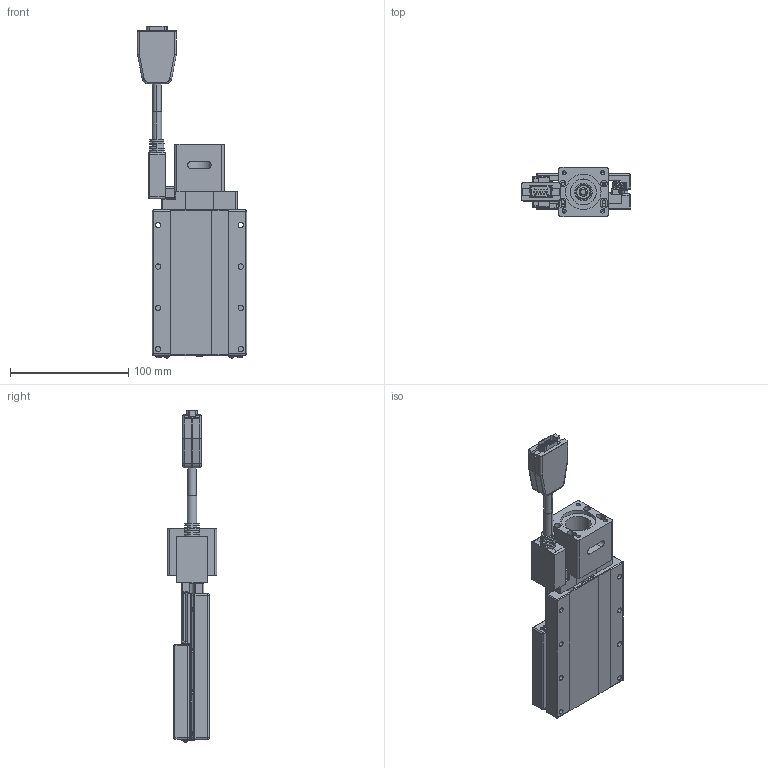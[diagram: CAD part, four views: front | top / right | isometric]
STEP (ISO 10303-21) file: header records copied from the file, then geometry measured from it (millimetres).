
FILE_DESCRIPTION (( 'STEP AP203' ), '1' );
FILE_NAME ('CXS8050(伺服M無馬達).STEP', '2023-12-25T09:30:33', ( '' ), ( '' ), 'SwSTEP 2.0', 'SolidWorks 2019', '' );
FILE_SCHEMA (( 'CONFIG_CONTROL_DESIGN' ));
Length unit declared in the file: millimetre
Products named in the file (6): HR10A-10J-12P; Group1^CXS8050(伺服M無馬達)_defeature_GMT; CXS-H-01; Group2^CXS8050(伺服M無馬達)_defeature_GMT; CXS8050(伺服M無馬達); CXS-M_GMT
Assembly tree (5 placements, depth 2):
  CXS8050(伺服M無馬達)
    Group1^CXS8050(伺服M無馬達)_defeature_GMT
    Group2^CXS8050(伺服M無馬達)_defeature_GMT
    HR10A-10J-12P
    CXS-H-01
    CXS-M_GMT
Bounding box: 92.5 x 42 x 281.2 mm (x, y, z)
Volume: 105329.2 mm3; surface area: 106603.8 mm2
Topology: 11 solids, 15 shells, 2653 faces, 6683 edges, 4175 vertices
Faces by surface type: plane 1347, cylinder 730, cone 235, bspline 146, sphere 140, torus 55
Entity records: 86816 total; most frequent: CARTESIAN_POINT 22488, DIRECTION 13427, ORIENTED_EDGE 13238, EDGE_CURVE 6619, AXIS2_PLACEMENT_3D 4867, VERTEX_POINT 4175, VECTOR 3693, LINE 3693
